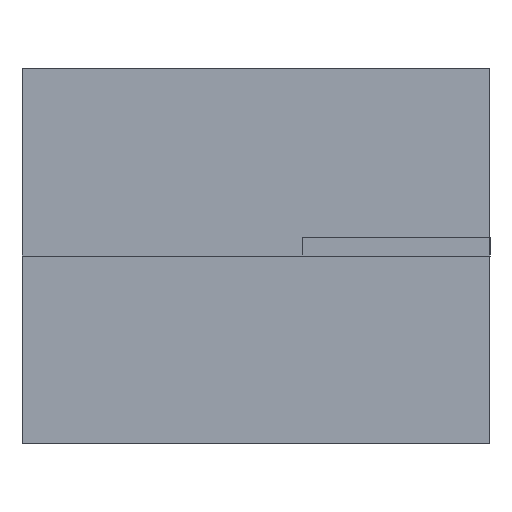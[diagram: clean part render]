
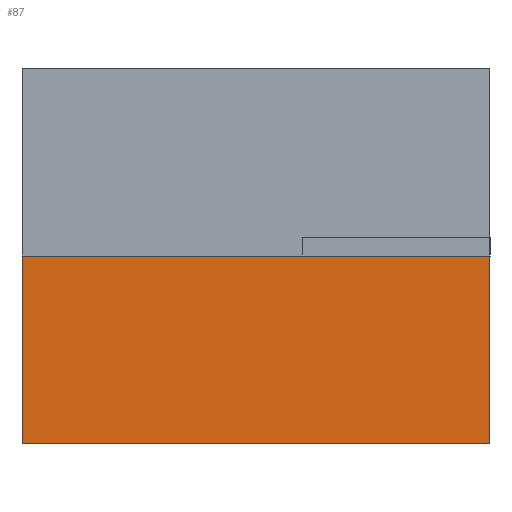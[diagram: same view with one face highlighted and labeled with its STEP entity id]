
A CAD part, front view. The second image highlights one B-rep face of the part: STEP entity #87.
In plain terms, the highlighted planar face has unit normal (0, -1, 0).
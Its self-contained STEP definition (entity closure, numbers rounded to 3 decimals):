
#87=ADVANCED_FACE('',(#301),#303,.T.);
#301=FACE_BOUND('',#302,.T.);
#302=EDGE_LOOP('',(#466,#467,#468,#469,#470));
#303=PLANE('',#304);
#304=AXIS2_PLACEMENT_3D('',#305,#306,#307);
#305=CARTESIAN_POINT('',(-2.5,-2.5,0.));
#306=DIRECTION('',(0.,-1.,0.));
#307=DIRECTION('',(1.,0.,0.));
#466=ORIENTED_EDGE('',*,*,#566,.T.);
#467=ORIENTED_EDGE('',*,*,#567,.T.);
#468=ORIENTED_EDGE('',*,*,#565,.F.);
#469=ORIENTED_EDGE('',*,*,#568,.T.);
#470=ORIENTED_EDGE('',*,*,#569,.T.);
#565=EDGE_CURVE('',#617,#612,#619,.T.);
#566=EDGE_CURVE('',#620,#621,#622,.T.);
#567=EDGE_CURVE('',#621,#612,#623,.T.);
#568=EDGE_CURVE('',#617,#624,#625,.T.);
#569=EDGE_CURVE('',#624,#620,#626,.T.);
#612=VERTEX_POINT('',#692);
#617=VERTEX_POINT('',#701);
#619=LINE('',#705,#706);
#620=VERTEX_POINT('',#708);
#621=VERTEX_POINT('',#709);
#622=LINE('',#710,#711);
#623=LINE('',#713,#714);
#624=VERTEX_POINT('',#716);
#625=LINE('',#717,#718);
#626=LINE('',#720,#721);
#692=CARTESIAN_POINT('',(-2.5,-2.5,1.));
#701=CARTESIAN_POINT('',(-2.5,-2.5,0.));
#705=CARTESIAN_POINT('',(-2.5,-2.5,0.));
#706=VECTOR('',#707,1.);
#707=DIRECTION('',(0.,0.,1.));
#708=CARTESIAN_POINT('',(0.,-2.5,1.));
#709=CARTESIAN_POINT('',(-1.,-2.5,1.));
#710=CARTESIAN_POINT('',(0.,-2.5,1.));
#711=VECTOR('',#712,1.);
#712=DIRECTION('',(-1.,0.,0.));
#713=CARTESIAN_POINT('',(-1.,-2.5,1.));
#714=VECTOR('',#715,1.);
#715=DIRECTION('',(-1.,0.,0.));
#716=CARTESIAN_POINT('',(0.,-2.5,0.));
#717=CARTESIAN_POINT('',(-2.5,-2.5,0.));
#718=VECTOR('',#719,1.);
#719=DIRECTION('',(1.,0.,0.));
#720=CARTESIAN_POINT('',(0.,-2.5,0.));
#721=VECTOR('',#722,1.);
#722=DIRECTION('',(0.,0.,1.));
